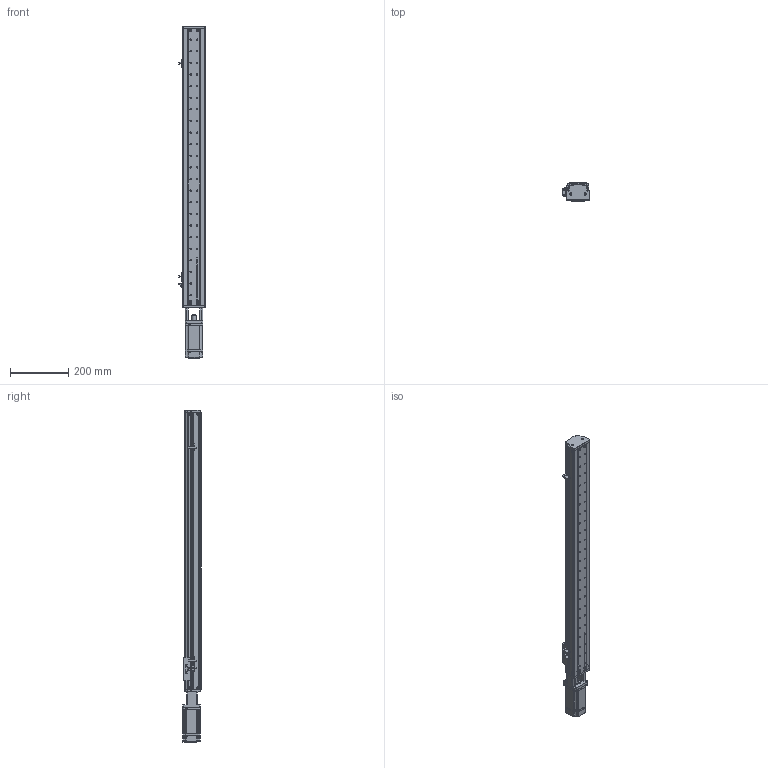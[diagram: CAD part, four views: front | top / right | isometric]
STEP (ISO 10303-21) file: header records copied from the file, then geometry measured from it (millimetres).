
FILE_DESCRIPTION (( 'STEP AP214' ), '1' );
FILE_NAME ('KSD75S-S800-MT-CM.STEP', '2019-10-18T07:35:08', ( '微软用户' ), ( '微软中国' ), 'SwSTEP 2.0', 'SolidWorks 2014', '' );
FILE_SCHEMA (( 'AUTOMOTIVE_DESIGN' ));
Length unit declared in the file: millimetre
Products named in the file (12): MHMD042G1CA_2_03; 覜茼え100遵圉猾敕; U倰嫖萇EEㄜSX672; 綴傷啣 ; 100遵鎮湛假蚾啣1 ; ヶ傷啣; 75裔啣-800俴最; 75遵耀郪耜啣-800俴最; 75遵賑雄釱; MGW15H賑寢800; 800俴最; KSD75S-S800-MT-CM
Assembly tree (14 placements, depth 3):
  KSD75S-S800-MT-CM
    MGW15H賑寢800
      800俴最
    75遵賑雄釱
    75遵耀郪耜啣-800俴最  x2
    75裔啣-800俴最
    ヶ傷啣
    100遵鎮湛假蚾啣1 
    綴傷啣 
    U倰嫖萇EEㄜSX672  x3
    覜茼え100遵圉猾敕
    MHMD042G1CA_2_03
Bounding box: 91.7 x 63 x 1143.5 mm (x, y, z)
Volume: 1138553.7 mm3; surface area: 716020 mm2
Topology: 12 solids, 13 shells, 1506 faces, 4221 edges, 2755 vertices
Faces by surface type: cylinder 740, plane 619, cone 129, bspline 18
Entity records: 48284 total; most frequent: CARTESIAN_POINT 9097, DIRECTION 7273, ORIENTED_EDGE 6722, EDGE_CURVE 3432, AXIS2_PLACEMENT_3D 2710, VERTEX_POINT 2273, LINE 1853, VECTOR 1853
